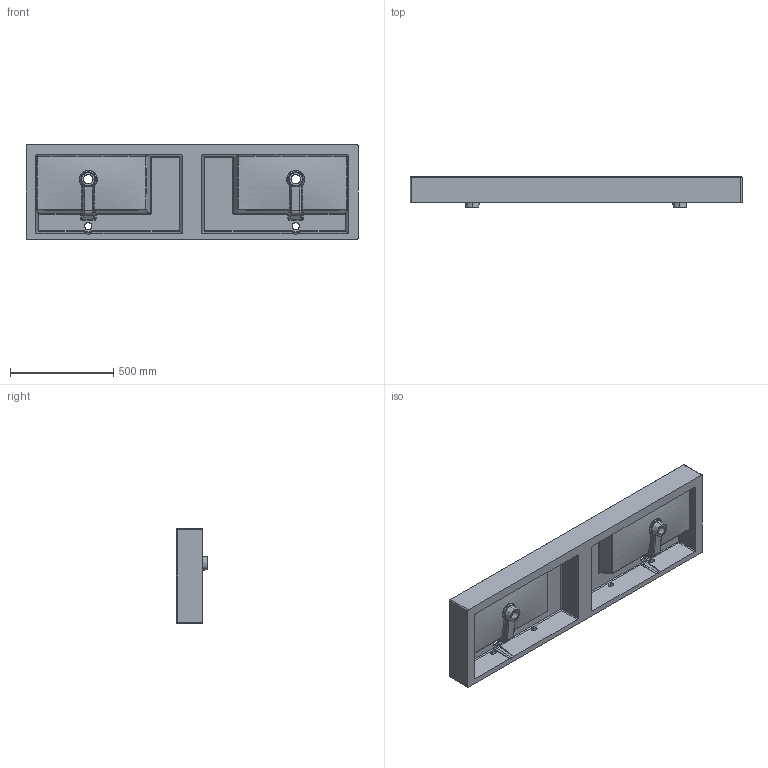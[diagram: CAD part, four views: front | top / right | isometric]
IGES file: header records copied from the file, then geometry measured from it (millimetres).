
Start section: SolidWorks IGES file using analytic representation for surfaces
Global section: file name: \\vmware-host\Shared Folders\Documenti\LAVORO\TECLA\TECLA 2019\TWENTY\TWENTY 160\TWENTY160DV.IGS; native system: SolidWorks 2017; preprocessor: SolidWorks 2017; author: silvia; date: 190411.163505; units: millimetre
Bounding box: 1610 x 150 x 460 mm (x, y, z)
Surface area: 2631490.9 mm2 (no closed solid volume)
Topology: 0 solids, 0 shells, 320 faces, 4089 edges, 4077 vertices
Faces by surface type: bspline 167, revolution 153
